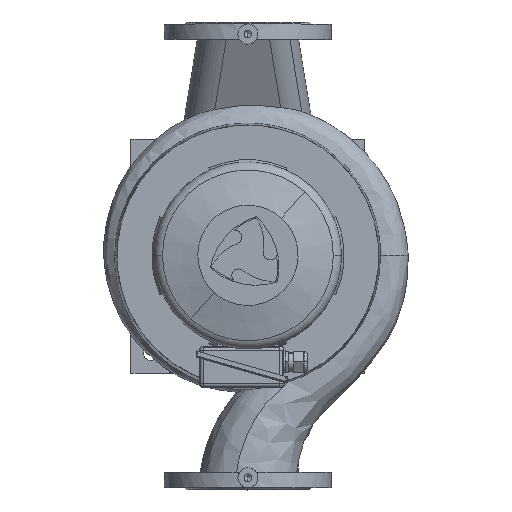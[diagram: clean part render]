
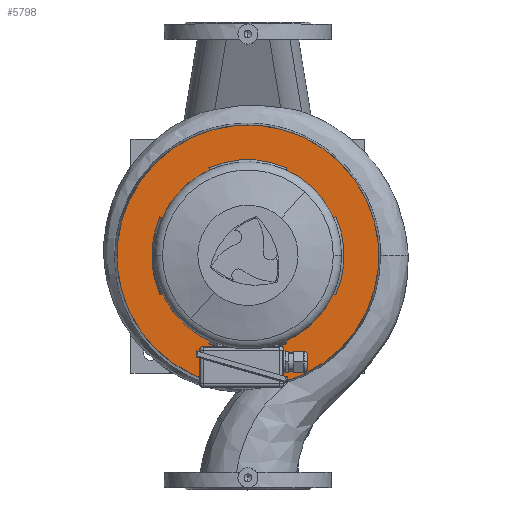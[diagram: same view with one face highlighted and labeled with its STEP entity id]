
A CAD part, top view. The second image highlights one B-rep face of the part: STEP entity #5798.
In plain terms, the highlighted planar face has unit normal (0, 0, 1) as drawn and (1, 0, 0) by its records, which use the part's own axes.
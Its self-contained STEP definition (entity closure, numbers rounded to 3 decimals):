
#5798=ADVANCED_FACE('',(#11541,#11542),#11543,.T.);
#5822=EDGE_CURVE('',#11582,#11583,#11584,.T.);
#5846=EDGE_CURVE('',#11626,#11627,#11628,.T.);
#5854=EDGE_CURVE('',#11636,#11639,#11640,.T.);
#5862=EDGE_CURVE('',#11648,#11651,#11652,.T.);
#5868=EDGE_CURVE('',#11655,#11627,#11660,.T.);
#5870=EDGE_CURVE('',#11662,#11639,#11663,.T.);
#5878=EDGE_CURVE('',#11674,#11670,#11675,.T.);
#5886=EDGE_CURVE('',#11685,#11681,#11686,.T.);
#5894=EDGE_CURVE('',#11692,#11695,#11696,.T.);
#5904=EDGE_CURVE('',#11706,#11636,#11709,.T.);
#5910=EDGE_CURVE('',#11714,#11648,#11717,.T.);
#5918=EDGE_CURVE('',#11725,#11720,#11728,.T.);
#5920=EDGE_CURVE('',#11651,#11670,#11730,.T.);
#5924=EDGE_CURVE('',#11720,#11681,#11734,.T.);
#5928=EDGE_CURVE('',#11695,#11626,#11738,.T.);
#5932=EDGE_CURVE('',#11662,#11714,#11742,.T.);
#5936=EDGE_CURVE('',#11674,#11725,#11746,.T.);
#5938=EDGE_CURVE('',#11655,#11706,#11748,.T.);
#5942=EDGE_CURVE('',#11583,#11582,#11752,.T.);
#5944=EDGE_CURVE('',#11685,#11692,#11754,.T.);
#11541=FACE_OUTER_BOUND('',#22900,.T.);
#11542=FACE_BOUND('',#22901,.T.);
#11543=PLANE('',#22902);
#11582=VERTEX_POINT('',#22943);
#11583=VERTEX_POINT('',#22944);
#11584=CIRCLE('',#22945,196.0);
#11626=VERTEX_POINT('',#22999);
#11627=VERTEX_POINT('',#23000);
#11628=CIRCLE('',#23001,132.799);
#11636=VERTEX_POINT('',#23021);
#11639=VERTEX_POINT('',#23034);
#11640=CIRCLE('',#23035,132.799);
#11648=VERTEX_POINT('',#23055);
#11651=VERTEX_POINT('',#23068);
#11652=CIRCLE('',#23069,132.799);
#11655=VERTEX_POINT('',#23073);
#11660=LINE('',#23090,#23091);
#11662=VERTEX_POINT('',#23094);
#11663=LINE('',#23095,#23096);
#11670=VERTEX_POINT('',#23116);
#11674=VERTEX_POINT('',#23130);
#11675=LINE('',#23131,#23132);
#11681=VERTEX_POINT('',#23151);
#11685=VERTEX_POINT('',#23165);
#11686=LINE('',#23166,#23167);
#11692=VERTEX_POINT('',#23186);
#11695=VERTEX_POINT('',#23199);
#11696=LINE('',#23200,#23201);
#11706=VERTEX_POINT('',#23226);
#11709=LINE('',#23239,#23240);
#11714=VERTEX_POINT('',#23248);
#11717=LINE('',#23261,#23262);
#11720=VERTEX_POINT('',#23266);
#11725=VERTEX_POINT('',#23283);
#11728=LINE('',#23296,#23297);
#11730=CIRCLE('',#23300,132.799);
#11734=CIRCLE('',#23306,132.799);
#11738=CIRCLE('',#23312,132.799);
#11742=CIRCLE('',#23318,144.0);
#11746=CIRCLE('',#23324,144.0);
#11748=CIRCLE('',#23327,144.0);
#11752=CIRCLE('',#23333,196.0);
#11754=CIRCLE('',#23336,144.0);
#22900=EDGE_LOOP('',(#32609,#32610));
#22901=EDGE_LOOP('',(#32611,#32612,#32613,#32614,#32615,#32616,#32617,#32618,#32619,#32620,#32621,#32622,#32623,#32624,#32625,#32626,#32627,#32628));
#22902=AXIS2_PLACEMENT_3D('',#32629,#32630,#32631);
#22943=CARTESIAN_POINT('',(20.0,196.0,0.));
#22944=CARTESIAN_POINT('',(20.0,-196.0,0.));
#22945=AXIS2_PLACEMENT_3D('',#32731,#32732,#32733);
#22999=CARTESIAN_POINT('',(20.0,-132.799,0.));
#23000=CARTESIAN_POINT('',(20.0,-123.51,-48.794));
#23001=AXIS2_PLACEMENT_3D('',#32767,#32768,#32769);
#23021=CARTESIAN_POINT('',(20.0,-48.794,-123.51));
#23034=CARTESIAN_POINT('',(20.0,48.794,-123.51));
#23035=AXIS2_PLACEMENT_3D('',#32773,#32774,#32775);
#23055=CARTESIAN_POINT('',(20.0,123.51,-48.794));
#23068=CARTESIAN_POINT('',(20.0,132.799,0.));
#23069=AXIS2_PLACEMENT_3D('',#32779,#32780,#32781);
#23073=CARTESIAN_POINT('',(20.0,-134.395,-51.711));
#23090=CARTESIAN_POINT('',(20.0,-134.395,-51.711));
#23091=VECTOR('',#32783,1.0);
#23094=CARTESIAN_POINT('',(20.0,51.711,-134.395));
#23095=CARTESIAN_POINT('',(20.0,51.711,-134.395));
#23096=VECTOR('',#32784,1.0);
#23116=CARTESIAN_POINT('',(20.0,123.51,48.794));
#23130=CARTESIAN_POINT('',(20.0,134.395,51.711));
#23131=CARTESIAN_POINT('',(20.0,134.395,51.711));
#23132=VECTOR('',#32786,1.0);
#23151=CARTESIAN_POINT('',(20.0,-48.794,123.51));
#23165=CARTESIAN_POINT('',(20.0,-51.711,134.395));
#23166=CARTESIAN_POINT('',(20.0,-51.711,134.395));
#23167=VECTOR('',#32788,1.0);
#23186=CARTESIAN_POINT('',(20.0,-134.395,51.711));
#23199=CARTESIAN_POINT('',(20.0,-123.51,48.794));
#23200=CARTESIAN_POINT('',(20.0,-134.395,51.711));
#23201=VECTOR('',#32790,1.0);
#23226=CARTESIAN_POINT('',(20.0,-51.711,-134.395));
#23239=CARTESIAN_POINT('',(20.0,-51.711,-134.395));
#23240=VECTOR('',#32793,1.0);
#23248=CARTESIAN_POINT('',(20.0,134.395,-51.711));
#23261=CARTESIAN_POINT('',(20.0,134.395,-51.711));
#23262=VECTOR('',#32795,1.0);
#23266=CARTESIAN_POINT('',(20.0,48.794,123.51));
#23283=CARTESIAN_POINT('',(20.0,51.711,134.395));
#23296=CARTESIAN_POINT('',(20.0,51.711,134.395));
#23297=VECTOR('',#32797,1.0);
#23300=AXIS2_PLACEMENT_3D('',#32798,#32799,#32800);
#23306=AXIS2_PLACEMENT_3D('',#32804,#32805,#32806);
#23312=AXIS2_PLACEMENT_3D('',#32810,#32811,#32812);
#23318=AXIS2_PLACEMENT_3D('',#32816,#32817,#32818);
#23324=AXIS2_PLACEMENT_3D('',#32822,#32823,#32824);
#23327=AXIS2_PLACEMENT_3D('',#32825,#32826,#32827);
#23333=AXIS2_PLACEMENT_3D('',#32831,#32832,#32833);
#23336=AXIS2_PLACEMENT_3D('',#32834,#32835,#32836);
#32609=ORIENTED_EDGE('',*,*,#5822,.T.);
#32610=ORIENTED_EDGE('',*,*,#5942,.T.);
#32611=ORIENTED_EDGE('',*,*,#5944,.F.);
#32612=ORIENTED_EDGE('',*,*,#5886,.T.);
#32613=ORIENTED_EDGE('',*,*,#5924,.F.);
#32614=ORIENTED_EDGE('',*,*,#5918,.F.);
#32615=ORIENTED_EDGE('',*,*,#5936,.F.);
#32616=ORIENTED_EDGE('',*,*,#5878,.T.);
#32617=ORIENTED_EDGE('',*,*,#5920,.F.);
#32618=ORIENTED_EDGE('',*,*,#5862,.F.);
#32619=ORIENTED_EDGE('',*,*,#5910,.F.);
#32620=ORIENTED_EDGE('',*,*,#5932,.F.);
#32621=ORIENTED_EDGE('',*,*,#5870,.T.);
#32622=ORIENTED_EDGE('',*,*,#5854,.F.);
#32623=ORIENTED_EDGE('',*,*,#5904,.F.);
#32624=ORIENTED_EDGE('',*,*,#5938,.F.);
#32625=ORIENTED_EDGE('',*,*,#5868,.T.);
#32626=ORIENTED_EDGE('',*,*,#5846,.F.);
#32627=ORIENTED_EDGE('',*,*,#5928,.F.);
#32628=ORIENTED_EDGE('',*,*,#5894,.F.);
#32629=CARTESIAN_POINT('',(20.0,170.0,0.));
#32630=DIRECTION('',(1.0,0.0,0.0));
#32631=DIRECTION('',(0.0,0.0,-1.0));
#32731=CARTESIAN_POINT('',(20.0,0.0,0.0));
#32732=DIRECTION('',(1.0,0.0,0.0));
#32733=DIRECTION('',(0.0,1.0,0.));
#32767=CARTESIAN_POINT('',(20.0,0.0,0.0));
#32768=DIRECTION('',(1.0,0.0,0.0));
#32769=DIRECTION('',(0.0,1.0,0.0));
#32773=CARTESIAN_POINT('',(20.0,0.0,0.0));
#32774=DIRECTION('',(1.0,0.0,0.0));
#32775=DIRECTION('',(0.0,1.0,0.0));
#32779=CARTESIAN_POINT('',(20.0,0.0,0.0));
#32780=DIRECTION('',(1.0,0.0,0.0));
#32781=DIRECTION('',(0.0,1.0,0.0));
#32783=DIRECTION('',(0.,0.966,0.259));
#32784=DIRECTION('',(0.,-0.259,0.966));
#32786=DIRECTION('',(0.,-0.966,-0.259));
#32788=DIRECTION('',(0.,0.259,-0.966));
#32790=DIRECTION('',(0.,0.966,-0.259));
#32793=DIRECTION('',(0.,0.259,0.966));
#32795=DIRECTION('',(0.,-0.966,0.259));
#32797=DIRECTION('',(0.,-0.259,-0.966));
#32798=CARTESIAN_POINT('',(20.0,0.0,0.0));
#32799=DIRECTION('',(1.0,0.0,0.0));
#32800=DIRECTION('',(0.0,1.0,0.0));
#32804=CARTESIAN_POINT('',(20.0,0.0,0.0));
#32805=DIRECTION('',(1.0,0.0,0.0));
#32806=DIRECTION('',(0.0,1.0,0.0));
#32810=CARTESIAN_POINT('',(20.0,0.0,0.0));
#32811=DIRECTION('',(1.0,0.0,0.0));
#32812=DIRECTION('',(0.0,1.0,0.0));
#32816=CARTESIAN_POINT('',(20.0,0.0,0.0));
#32817=DIRECTION('',(1.0,0.0,0.0));
#32818=DIRECTION('',(0.0,1.0,0.0));
#32822=CARTESIAN_POINT('',(20.0,0.0,0.0));
#32823=DIRECTION('',(1.0,0.0,0.0));
#32824=DIRECTION('',(0.0,1.0,0.0));
#32825=CARTESIAN_POINT('',(20.0,0.0,0.0));
#32826=DIRECTION('',(1.0,0.0,0.0));
#32827=DIRECTION('',(0.0,1.0,0.0));
#32831=CARTESIAN_POINT('',(20.0,0.0,0.0));
#32832=DIRECTION('',(1.0,0.0,0.0));
#32833=DIRECTION('',(0.0,1.0,0.));
#32834=CARTESIAN_POINT('',(20.0,0.0,0.0));
#32835=DIRECTION('',(1.0,0.0,0.0));
#32836=DIRECTION('',(0.0,1.0,0.0));
